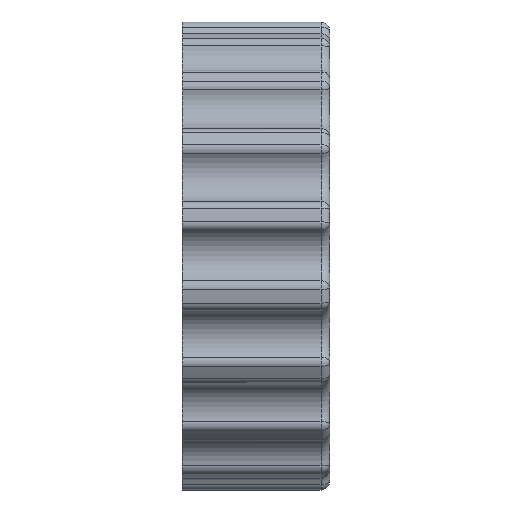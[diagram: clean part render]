
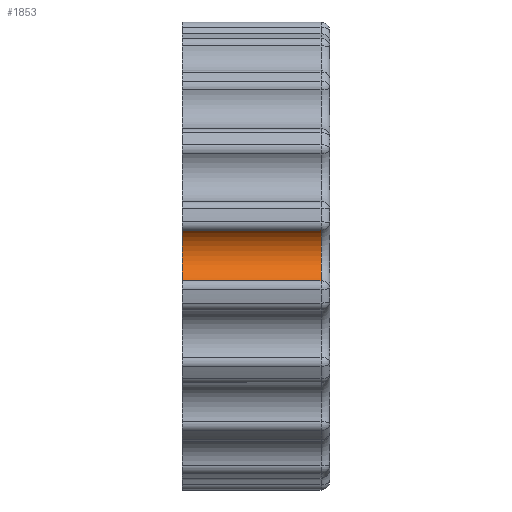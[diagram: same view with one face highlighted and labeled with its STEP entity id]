
A CAD part, top view. The second image highlights one B-rep face of the part: STEP entity #1853.
In plain terms, the highlighted cylindrical face has radius 1.75 mm (diameter 3.5 mm), a partial arc.
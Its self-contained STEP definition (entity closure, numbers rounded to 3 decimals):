
#519 = DIRECTION ( 'NONE',  ( 0., 0., 1. ) ) ;
#957 = DIRECTION ( 'NONE',  ( 0., 0., -1. ) ) ;
#974 = DIRECTION ( 'NONE',  ( 1., 0., 0. ) ) ;
#1000 = VECTOR ( 'NONE', #4882, 1000. ) ;
#1145 = VERTEX_POINT ( 'NONE', #4278 ) ;
#1287 = VERTEX_POINT ( 'NONE', #4726 ) ;
#1498 = LINE ( 'NONE', #1856, #2190 ) ;
#1505 = ORIENTED_EDGE ( 'NONE', *, *, #4191, .T. ) ;
#1536 = VERTEX_POINT ( 'NONE', #4863 ) ;
#1743 = CYLINDRICAL_SURFACE ( 'NONE', #1813, 1.75 ) ;
#1813 = AXIS2_PLACEMENT_3D ( 'NONE', #4776, #3069, #4378 ) ;
#1853 = ADVANCED_FACE ( 'NONE', ( #3507 ), #1743, .F. ) ;
#1856 = CARTESIAN_POINT ( 'NONE',  ( -4.95, -1.458, 13.141 ) ) ;
#1867 = ORIENTED_EDGE ( 'NONE', *, *, #4663, .T. ) ;
#2190 = VECTOR ( 'NONE', #4571, 1000. ) ;
#2531 = ORIENTED_EDGE ( 'NONE', *, *, #2596, .T. ) ;
#2596 = EDGE_CURVE ( 'NONE', #1145, #1287, #2841, .T. ) ;
#2702 = CARTESIAN_POINT ( 'NONE',  ( 0., 0., 14.109 ) ) ;
#2841 = CIRCLE ( 'NONE', #4781, 1.75 ) ;
#3069 = DIRECTION ( 'NONE',  ( 1., 0., 0. ) ) ;
#3212 = CARTESIAN_POINT ( 'NONE',  ( 0., -1.458, 13.141 ) ) ;
#3233 = LINE ( 'NONE', #3669, #1000 ) ;
#3495 = EDGE_CURVE ( 'NONE', #4102, #1536, #3956, .T. ) ;
#3507 = FACE_OUTER_BOUND ( 'NONE', #4672, .T. ) ;
#3651 = DIRECTION ( 'NONE',  ( 1., 0., 0. ) ) ;
#3669 = CARTESIAN_POINT ( 'NONE',  ( -4.95, 1.458, 13.141 ) ) ;
#3763 = AXIS2_PLACEMENT_3D ( 'NONE', #2702, #3651, #957 ) ;
#3956 = CIRCLE ( 'NONE', #3763, 1.75 ) ;
#4102 = VERTEX_POINT ( 'NONE', #3212 ) ;
#4191 = EDGE_CURVE ( 'NONE', #4102, #1145, #1498, .T. ) ;
#4278 = CARTESIAN_POINT ( 'NONE',  ( 8., -1.458, 13.141 ) ) ;
#4378 = DIRECTION ( 'NONE',  ( 0., 0., -1. ) ) ;
#4487 = CARTESIAN_POINT ( 'NONE',  ( 8., 0., 14.109 ) ) ;
#4571 = DIRECTION ( 'NONE',  ( 1., 0., 0. ) ) ;
#4663 = EDGE_CURVE ( 'NONE', #1287, #1536, #3233, .T. ) ;
#4672 = EDGE_LOOP ( 'NONE', ( #1505, #2531, #1867, #5070 ) ) ;
#4726 = CARTESIAN_POINT ( 'NONE',  ( 8., 1.458, 13.141 ) ) ;
#4776 = CARTESIAN_POINT ( 'NONE',  ( -4.95, 0., 14.109 ) ) ;
#4781 = AXIS2_PLACEMENT_3D ( 'NONE', #4487, #974, #519 ) ;
#4863 = CARTESIAN_POINT ( 'NONE',  ( 0., 1.458, 13.141 ) ) ;
#4882 = DIRECTION ( 'NONE',  ( -1., 0., 0. ) ) ;
#5070 = ORIENTED_EDGE ( 'NONE', *, *, #3495, .F. ) ;
